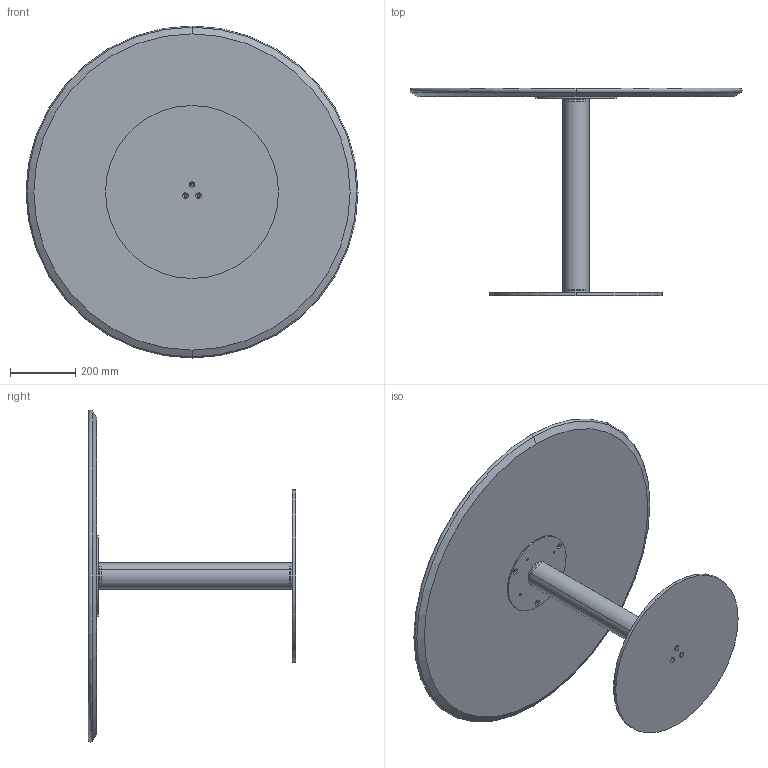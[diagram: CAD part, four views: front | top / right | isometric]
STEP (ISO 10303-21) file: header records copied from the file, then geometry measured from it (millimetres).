
FILE_DESCRIPTION (( 'STEP AP203' ), '1' );
FILE_NAME ('CB35A.STEP', '2024-08-08T09:00:42', ( '' ), ( '' ), 'SwSTEP 2.0', 'SolidWorks 2022', '' );
FILE_SCHEMA (( 'CONFIG_CONTROL_DESIGN' ));
Length unit declared in the file: millimetre
Products named in the file (9): K1XCMXX-00-Piani Rotondi in ceramica_D.1000 SOLO CERAMICA SP.6mm; CBS000000BAS-00-BISTRO PIASTRA INFERIORE_D.530; CBS000001COL_01-00-CILINDRO BISTRO TUBO H63; Assieme piani incassatti ceramica_Ø100cm; CBS200000PST-00-CONTROPIASTRA PER PIASTRA D.25cm GREZZO_250; CBS000001COL_02-00-CILINDRO BISTRO PIASTRA M8; BOMB0001-00-PIANO LEGNO CON INCASSO Ø100_MDF per Ø100cm; CB35A; CBS000001COL-00-CILINDRO BISTRO COLONNA H63
Assembly tree (9 placements, depth 3):
  CB35A
    CBS000001COL-00-CILINDRO BISTRO COLONNA H63
      CBS000001COL_01-00-CILINDRO BISTRO TUBO H63
      CBS000001COL_02-00-CILINDRO BISTRO PIASTRA M8  x2
    CBS000000BAS-00-BISTRO PIASTRA INFERIORE_D.530
    CBS200000PST-00-CONTROPIASTRA PER PIASTRA D.25cm GREZZO_250
    Assieme piani incassatti ceramica_Ø100cm
      BOMB0001-00-PIANO LEGNO CON INCASSO Ø100_MDF per Ø100cm
      K1XCMXX-00-Piani Rotondi in ceramica_D.1000 SOLO CERAMICA SP.6mm
Bounding box: 1017 x 635 x 1017 mm (x, y, z)
Volume: 22503308.7 mm3; surface area: 4142491 mm2
Topology: 7 solids, 7 shells, 107 faces, 248 edges, 156 vertices
Faces by surface type: cylinder 62, cone 28, plane 15, torus 2
Entity records: 3879 total; most frequent: DIRECTION 588, CARTESIAN_POINT 475, ORIENTED_EDGE 448, AXIS2_PLACEMENT_3D 253, EDGE_CURVE 224, CIRCLE 142, VERTEX_POINT 140, EDGE_LOOP 140
